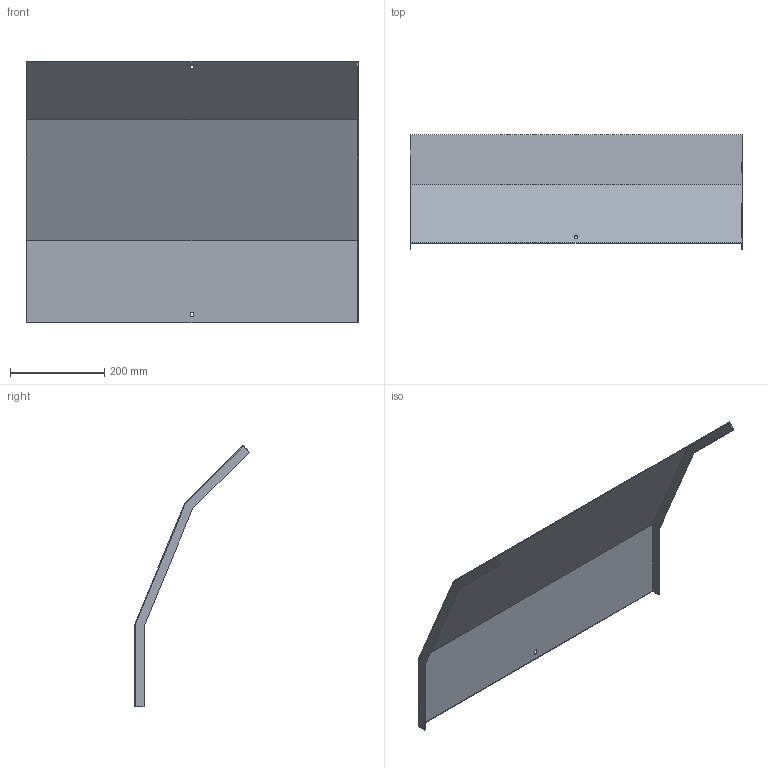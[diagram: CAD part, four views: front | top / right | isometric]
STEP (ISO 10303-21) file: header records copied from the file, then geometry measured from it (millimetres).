
FILE_DESCRIPTION (( 'STEP AP214' ), '1' );
FILE_NAME ('A2_34N3D700.step', '2025-02-21T10:35:03', ( '' ), ( '' ), 'SwSTEP 2.0', 'SolidWorks 2023', '' );
FILE_SCHEMA (( 'AUTOMOTIVE_DESIGN' ));
Length unit declared in the file: millimetre
Products named in the file (1): A2_34N3D700
Bounding box: 703 x 243.15 x 552.87 mm (x, y, z)
Volume: 692374 mm3; surface area: 927307.1 mm2
Topology: 1 solids, 1 shells, 26 faces, 72 edges, 48 vertices
Faces by surface type: plane 26
Entity records: 847 total; most frequent: CARTESIAN_POINT 147, ORIENTED_EDGE 144, DIRECTION 126, VECTOR 72, EDGE_CURVE 72, LINE 72, VERTEX_POINT 48, EDGE_LOOP 30
